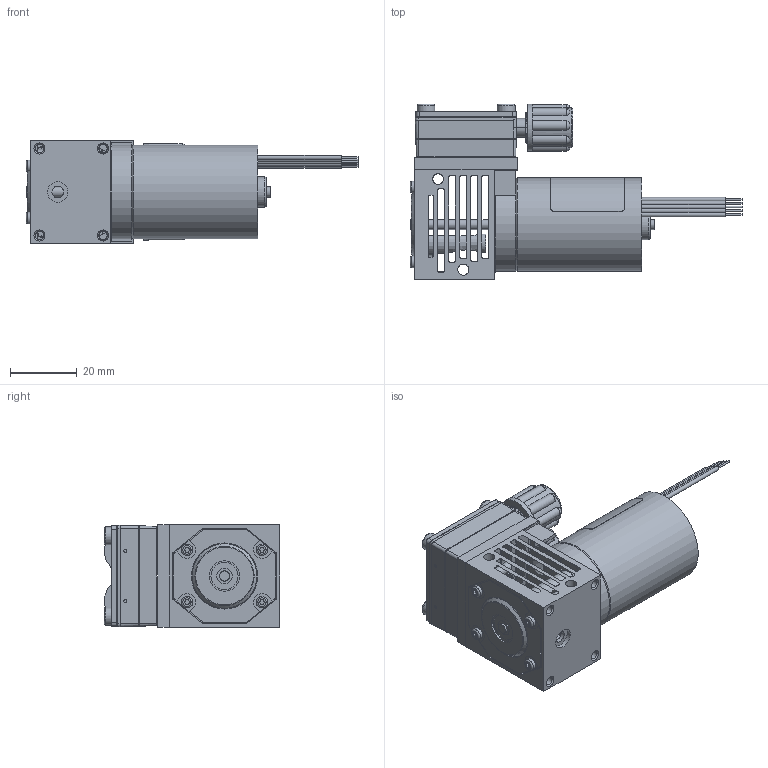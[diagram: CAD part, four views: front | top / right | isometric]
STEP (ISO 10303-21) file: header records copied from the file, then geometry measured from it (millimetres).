
FILE_DESCRIPTION (( 'STEP AP214' ), '1' );
FILE_NAME ('6313K_MA-12.STEP', '2022-01-28T12:25:13', ( '' ), ( '' ), 'SwSTEP 2.0', 'SolidWorks 2020', '' );
FILE_SCHEMA (( 'AUTOMOTIVE_DESIGN' ));
Length unit declared in the file: millimetre
Products named in the file (1): 6313K_MA-12
Bounding box: 99.25 x 52.45 x 30.7 mm (x, y, z)
Surface area: 20529.5 mm2 (no closed solid volume)
Topology: 0 solids, 27 shells, 447 faces, 1847 edges, 1414 vertices
Faces by surface type: cylinder 210, plane 161, torus 33, cone 24, bspline 19
Full cylindrical faces by diameter (mm): 0.5 x5, 1.26 x5, 2.5 x4, 3 x2, 3.3 x1, 3.5 x5, 4.6 x1, 5.3 x4, 6 x3, 6.1 x1, 7.3 x2, 8.1 x1, 9 x1, 9.1 x1, 12 x2, 14 x2, 26.9 x1, 27.9 x1, 28 x1, 29 x1
Entity records: 30211 total; most frequent: CARTESIAN_POINT 11297, DIRECTION 2765, ORIENTED_EDGE 2590, EDGE_CURVE 1707, VERTEX_POINT 1384, AXIS2_PLACEMENT_3D 1072, EDGE_LOOP 648, CIRCLE 643
